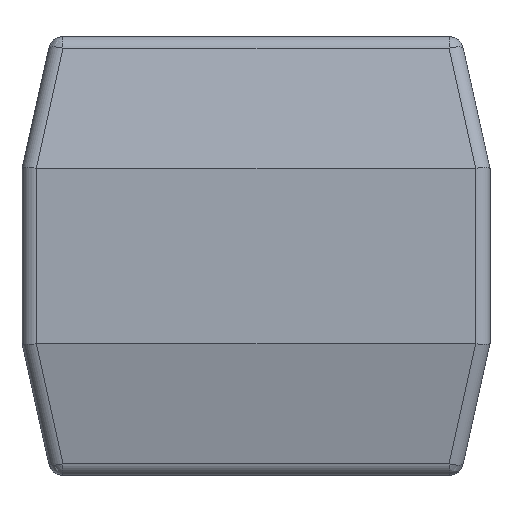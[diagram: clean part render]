
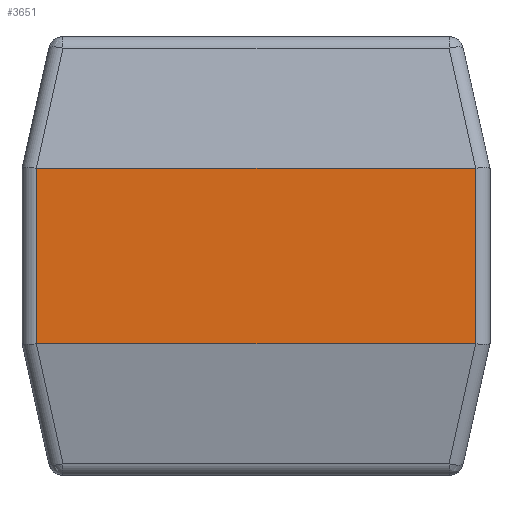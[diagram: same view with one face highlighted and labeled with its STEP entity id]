
A CAD part, left-side view. The second image highlights one B-rep face of the part: STEP entity #3651.
In plain terms, the highlighted planar face has unit normal (-1, 0, 0).
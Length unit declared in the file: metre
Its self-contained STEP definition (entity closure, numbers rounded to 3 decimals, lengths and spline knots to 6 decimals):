
#1170=ORIENTED_EDGE('',*,*,#1812,.T.);
#1171=ORIENTED_EDGE('',*,*,#1781,.T.);
#1172=ORIENTED_EDGE('',*,*,#1805,.T.);
#1173=ORIENTED_EDGE('',*,*,#1771,.T.);
#1771=EDGE_CURVE('',#2120,#2121,#2413,.T.);
#1781=EDGE_CURVE('',#2129,#2128,#2416,.T.);
#1805=EDGE_CURVE('',#2128,#2120,#2429,.T.);
#1812=EDGE_CURVE('',#2121,#2129,#2436,.T.);
#2120=VERTEX_POINT('',#9865);
#2121=VERTEX_POINT('',#9866);
#2128=VERTEX_POINT('',#9883);
#2129=VERTEX_POINT('',#9885);
#2413=LINE('',#9864,#2710);
#2416=LINE('',#9884,#2713);
#2429=LINE('',#9928,#2726);
#2436=LINE('',#9942,#2733);
#2710=VECTOR('',#5762,1.);
#2713=VECTOR('',#5781,1.);
#2726=VECTOR('',#5836,1.);
#2733=VECTOR('',#5857,1.);
#2927=EDGE_LOOP('',(#1170,#1171,#1172,#1173));
#3142=FACE_BOUND('',#2927,.T.);
#3260=PLANE('',#5083);
#3651=ADVANCED_FACE('',(#3142),#3260,.F.);
#5083=AXIS2_PLACEMENT_3D('',#9943,#5858,#5859);
#5762=DIRECTION('',(0.,0.,1.));
#5781=DIRECTION('',(0.,0.,-1.));
#5836=DIRECTION('',(0.,-1.,0.));
#5857=DIRECTION('',(0.,1.,0.));
#5858=DIRECTION('',(1.,0.,0.));
#5859=DIRECTION('',(0.,0.,-1.));
#9864=CARTESIAN_POINT('',(-0.09851,-0.012717,0.006263));
#9865=CARTESIAN_POINT('',(-0.09851,-0.012717,0.00671));
#9866=CARTESIAN_POINT('',(-0.09851,-0.012717,0.007305));
#9883=CARTESIAN_POINT('',(-0.09851,-0.011228,0.00671));
#9884=CARTESIAN_POINT('',(-0.09851,-0.011228,0.006263));
#9885=CARTESIAN_POINT('',(-0.09851,-0.011228,0.007305));
#9928=CARTESIAN_POINT('',(-0.09851,-0.012767,0.00671));
#9942=CARTESIAN_POINT('',(-0.09851,-0.012767,0.007305));
#9943=CARTESIAN_POINT('',(-0.09851,-0.012767,0.006263));
